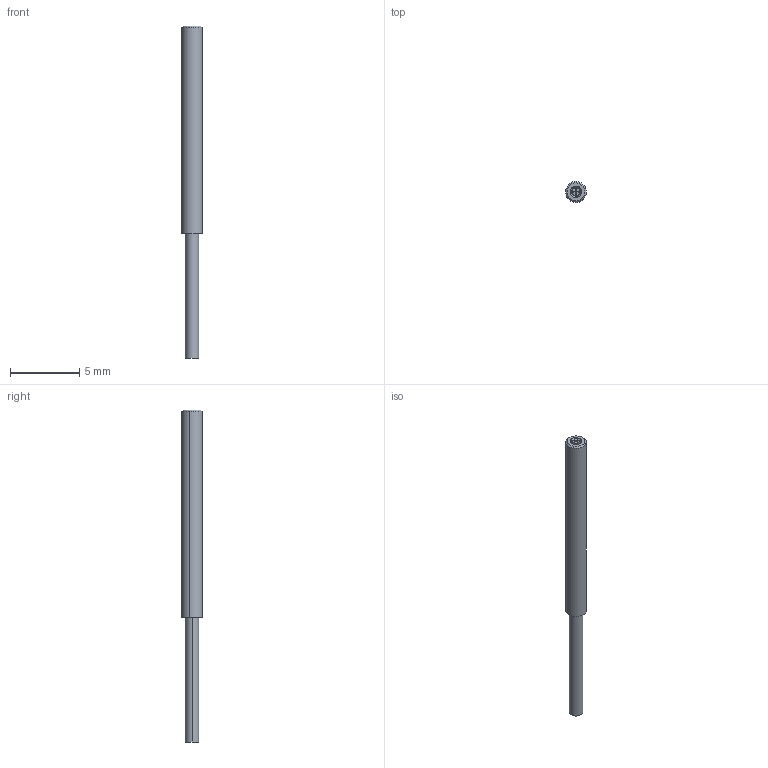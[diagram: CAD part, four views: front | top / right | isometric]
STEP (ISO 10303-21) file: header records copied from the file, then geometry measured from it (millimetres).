
FILE_DESCRIPTION (( 'STEP AP214' ), '1' );
FILE_NAME ('DR-E21.STEP', '2025-09-30T04:57:26', ( 'Windows User' ), ( 'P R C' ), 'SwSTEP 2.0', 'SolidWorks 2023', '' );
FILE_SCHEMA (( 'AUTOMOTIVE_DESIGN' ));
Length unit declared in the file: millimetre
Products named in the file (4): 0.25×4多芯光纤; 1.0光纤; SDxxxxx-DR-E21壳体; DR-E21
Assembly tree (3 placements, depth 2):
  DR-E21
    1.0光纤
    0.25×4多芯光纤
    SDxxxxx-DR-E21壳体
Bounding box: 1.5 x 1.5 x 24 mm (x, y, z)
Volume: 34.8 mm3; surface area: 188.1 mm2
Topology: 6 solids, 6 shells, 36 faces, 62 edges, 38 vertices
Faces by surface type: cylinder 16, plane 12, cone 8
Entity records: 1016 total; most frequent: DIRECTION 184, CARTESIAN_POINT 142, ORIENTED_EDGE 124, AXIS2_PLACEMENT_3D 80, EDGE_CURVE 62, CIRCLE 38, VERTEX_POINT 38, EDGE_LOOP 38
